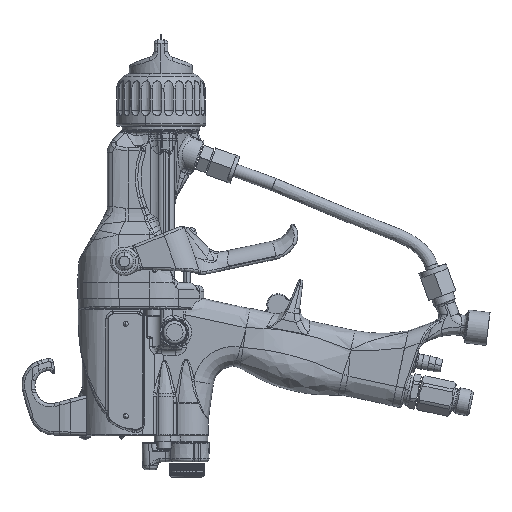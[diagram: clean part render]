
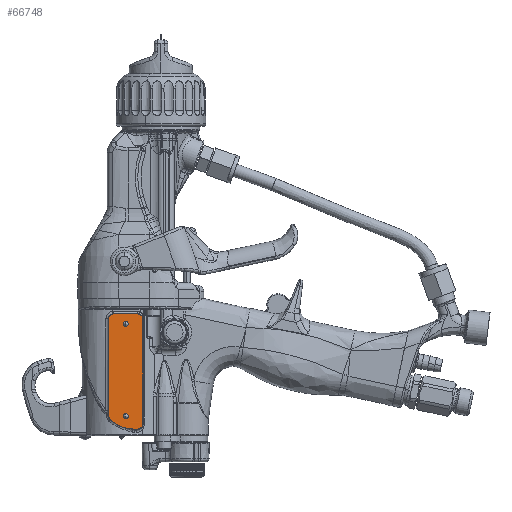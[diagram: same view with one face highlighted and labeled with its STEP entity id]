
A CAD part, left-side view. The second image highlights one B-rep face of the part: STEP entity #66748.
In plain terms, the highlighted planar face has unit normal (-1, 0, 0).
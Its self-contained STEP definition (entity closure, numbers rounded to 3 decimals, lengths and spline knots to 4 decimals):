
#58512=CARTESIAN_POINT('',(-0.755,0.4555,-4.42));
#58513=DIRECTION('',(-1.,0.,0.));
#58514=DIRECTION('',(0.,-1.,0.));
#58515=AXIS2_PLACEMENT_3D('',#58512,#58513,#58514);
#58517=DIRECTION('',(0.,0.,1.));
#58518=VECTOR('',#58517,2.062);
#58519=CARTESIAN_POINT('',(-0.755,0.357,-6.482));
#58520=LINE('',#58519,#58518);
#58521=CARTESIAN_POINT('',(-0.755,0.4555,-6.482));
#58522=DIRECTION('',(-1.,0.,0.));
#58523=DIRECTION('',(0.,0.,-1.));
#58524=AXIS2_PLACEMENT_3D('',#58521,#58522,#58523);
#58526=DIRECTION('',(0.,-1.,0.));
#58527=VECTOR('',#58526,0.087);
#58528=CARTESIAN_POINT('',(-0.755,0.5425,-6.5805));
#58529=LINE('',#58528,#58527);
#58530=CARTESIAN_POINT('',(-0.755,0.5425,-5.942));
#58531=DIRECTION('',(-1.,0.,0.));
#58532=DIRECTION('',(0.,0.713,-0.701));
#58533=AXIS2_PLACEMENT_3D('',#58530,#58531,#58532);
#58535=CARTESIAN_POINT('',(-0.755,0.9205,-6.3135));
#58536=DIRECTION('',(-1.,0.,0.));
#58537=DIRECTION('',(0.,1.,0.));
#58538=AXIS2_PLACEMENT_3D('',#58535,#58536,#58537);
#58540=DIRECTION('',(0.,0.,-1.));
#58541=VECTOR('',#58540,1.8935);
#58542=CARTESIAN_POINT('',(-0.755,1.029,-4.42));
#58543=LINE('',#58542,#58541);
#58544=CARTESIAN_POINT('',(-0.755,0.9305,-4.42));
#58545=DIRECTION('',(-1.,0.,0.));
#58546=DIRECTION('',(0.,0.,1.));
#58547=AXIS2_PLACEMENT_3D('',#58544,#58545,#58546);
#58549=DIRECTION('',(0.,1.,0.));
#58550=VECTOR('',#58549,0.475);
#58551=CARTESIAN_POINT('',(-0.755,0.4555,-4.3215));
#58552=LINE('',#58551,#58550);
#63199=CARTESIAN_POINT('',(-0.755,0.357,-4.42));
#63200=CARTESIAN_POINT('',(-0.755,0.4555,-4.3215));
#63201=VERTEX_POINT('',#63199);
#63202=VERTEX_POINT('',#63200);
#63203=CARTESIAN_POINT('',(-0.755,0.9305,-4.3215));
#63204=VERTEX_POINT('',#63203);
#63205=CARTESIAN_POINT('',(-0.755,1.029,-4.42));
#63206=VERTEX_POINT('',#63205);
#63207=CARTESIAN_POINT('',(-0.755,1.029,-6.3135));
#63208=VERTEX_POINT('',#63207);
#63209=CARTESIAN_POINT('',(-0.755,0.9979,-6.3895));
#63210=VERTEX_POINT('',#63209);
#63211=CARTESIAN_POINT('',(-0.755,0.5425,-6.5805));
#63212=VERTEX_POINT('',#63211);
#63213=CARTESIAN_POINT('',(-0.755,0.4555,-6.5805));
#63214=VERTEX_POINT('',#63213);
#63215=CARTESIAN_POINT('',(-0.755,0.357,-6.482));
#63216=VERTEX_POINT('',#63215);
#66723=CARTESIAN_POINT('',(-0.755,0.1305,-3.75));
#66724=DIRECTION('',(1.,0.,0.));
#66725=DIRECTION('',(0.,0.,-1.));
#66726=AXIS2_PLACEMENT_3D('',#66723,#66724,#66725);
#66727=PLANE('',#66726);
#66729=ORIENTED_EDGE('',*,*,#66728,.F.);
#66731=ORIENTED_EDGE('',*,*,#66730,.F.);
#66733=ORIENTED_EDGE('',*,*,#66732,.F.);
#66735=ORIENTED_EDGE('',*,*,#66734,.F.);
#66737=ORIENTED_EDGE('',*,*,#66736,.F.);
#66739=ORIENTED_EDGE('',*,*,#66738,.F.);
#66741=ORIENTED_EDGE('',*,*,#66740,.F.);
#66743=ORIENTED_EDGE('',*,*,#66742,.F.);
#66745=ORIENTED_EDGE('',*,*,#66744,.F.);
#66746=EDGE_LOOP('',(#66729,#66731,#66733,#66735,#66737,#66739,#66741,#66743,
#66745));
#66747=FACE_OUTER_BOUND('',#66746,.F.);
#66748=ADVANCED_FACE('',(#66747),#66727,.F.);
#58516=CIRCLE('',#58515,0.0985);
#58525=CIRCLE('',#58524,0.0985);
#58534=CIRCLE('',#58533,0.6385);
#58539=CIRCLE('',#58538,0.1085);
#58548=CIRCLE('',#58547,0.0985);
#66728=EDGE_CURVE('',#63201,#63202,#58516,.T.);
#66730=EDGE_CURVE('',#63216,#63201,#58520,.T.);
#66732=EDGE_CURVE('',#63214,#63216,#58525,.T.);
#66734=EDGE_CURVE('',#63212,#63214,#58529,.T.);
#66736=EDGE_CURVE('',#63210,#63212,#58534,.T.);
#66738=EDGE_CURVE('',#63208,#63210,#58539,.T.);
#66740=EDGE_CURVE('',#63206,#63208,#58543,.T.);
#66742=EDGE_CURVE('',#63204,#63206,#58548,.T.);
#66744=EDGE_CURVE('',#63202,#63204,#58552,.T.);
